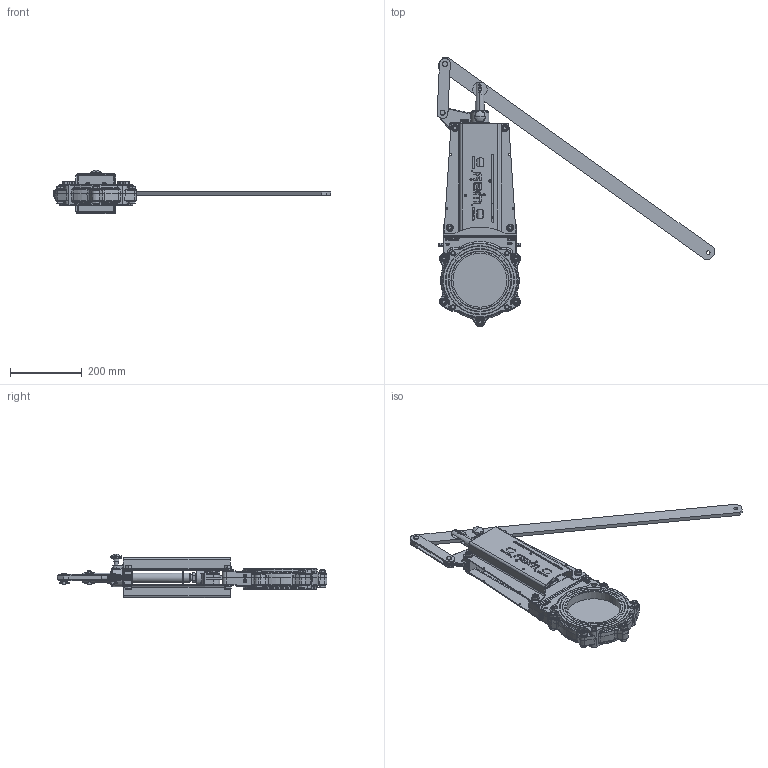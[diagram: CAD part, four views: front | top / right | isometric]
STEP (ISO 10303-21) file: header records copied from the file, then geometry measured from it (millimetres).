
FILE_DESCRIPTION (( 'STEP AP214' ), '1' );
FILE_NAME ('VGB DN 0150.STEP', '2015-09-23T09:13:46', ( 'admin' ), ( 'Hewlett-Packard Company' ), 'SwSTEP 2.0', 'SolidWorks 2013', '' );
FILE_SCHEMA (( 'AUTOMOTIVE_DESIGN' ));
Length unit declared in the file: millimetre
Products named in the file (1): VGB DN 0150
Bounding box: 772.33 x 750.1 x 120.5 mm (x, y, z)
Volume: 3330250.6 mm3; surface area: 754441.7 mm2
Topology: 59 solids, 62 shells, 3067 faces, 7347 edges, 4407 vertices
Faces by surface type: plane 1073, cylinder 761, cone 492, bspline 456, torus 279, sphere 6
Entity records: 143605 total; most frequent: CARTESIAN_POINT 40794, ORIENTED_EDGE 14538, DIRECTION 13869, EDGE_CURVE 7269, AXIS2_PLACEMENT_3D 5367, VERTEX_POINT 4407, EDGE_LOOP 3372, VECTOR 3135
